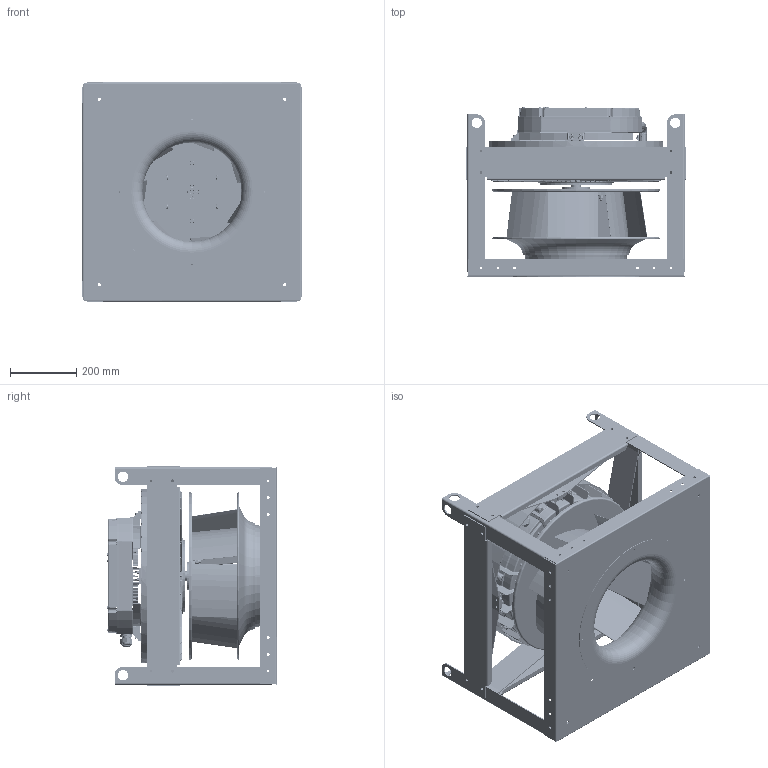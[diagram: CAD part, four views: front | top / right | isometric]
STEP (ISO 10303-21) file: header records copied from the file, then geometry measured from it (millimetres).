
FILE_DESCRIPTION (( 'STEP AP214' ), '1' );
FILE_NAME ('655778.STEP', '2026-04-07T20:36:06', ( '' ), ( '' ), 'SwSTEP 2.0', 'SolidWorks 2023', '' );
FILE_SCHEMA (( 'AUTOMOTIVE_DESIGN' ));
Length unit declared in the file: inch
Products named in the file (8): 651583_651583; 768036CS_768036CS; 651568_651568; SXPI STRAP_651579; 768048CS_748048CS; 925959CS_925959CS; 655778; 651567_651567
Assembly tree (16 placements, depth 2):
  655778
    651567_651567
    651568_651568  x4
    651583_651583  x4
    925959CS_925959CS
    768036CS_768036CS
    768048CS_748048CS
    SXPI STRAP_651579  x4
Bounding box: 663.7 x 514.98 x 663.7 mm (x, y, z)
Volume: 5768030 mm3; surface area: 5698782.5 mm2
Topology: 50 solids, 342 shells, 4341 faces, 13430 edges, 9159 vertices
Faces by surface type: plane 1296, cylinder 1204, bspline 1020, cone 442, torus 311, sphere 68
Full cylindrical faces by diameter (mm): 2.9 x2, 3.962 x4, 5.105 x16, 6 x37, 7 x5, 7.137 x16, 7.544 x1, 7.937 x3, 7.938 x1, 8.5 x1, 8.738 x87, 9 x4, 9.73 x8, 10 x8, 10.1 x1, 11.8 x16, 12.5 x1, 12.6 x1, 13 x15, 14 x1, 17.462 x2, 17.463 x2, 23.5 x1, 23.92 x1, 24.282 x1, 25.5 x3, 26.2 x1, 26.35 x1, 26.416 x2, 26.5 x1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
Entity records: 292777 total; most frequent: CARTESIAN_POINT 194357, ORIENTED_EDGE 19596, DIRECTION 17758, EDGE_CURVE 12186, VERTEX_POINT 8575, AXIS2_PLACEMENT_3D 7160, EDGE_LOOP 4938, FACE_OUTER_BOUND 4221
